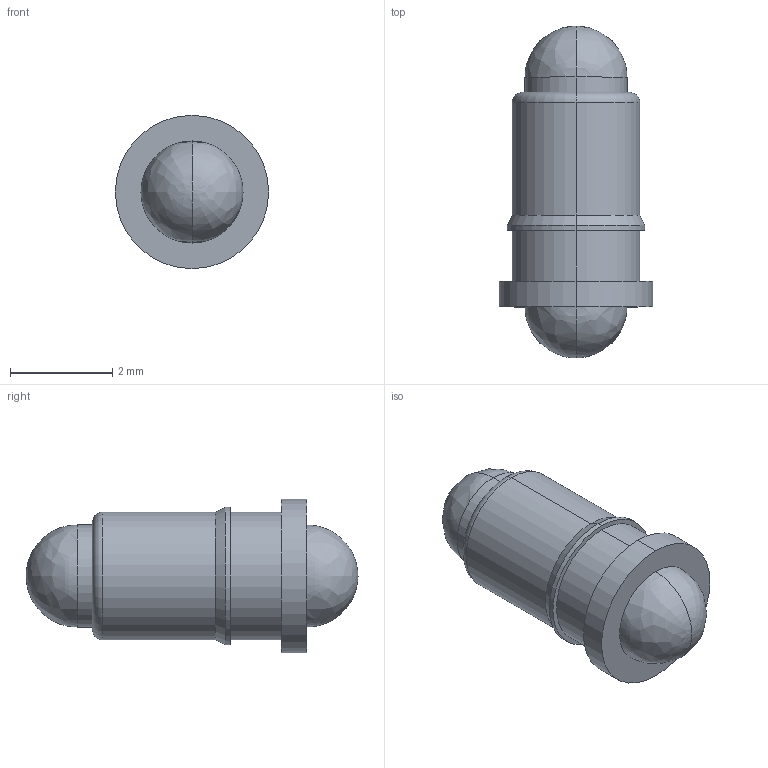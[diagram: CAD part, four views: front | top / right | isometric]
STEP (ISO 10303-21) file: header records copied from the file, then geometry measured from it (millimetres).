
FILE_DESCRIPTION((''),'2;1');
FILE_NAME('PRT0007','2023-06-01T11:21:11',('USER'),(''),'CREO PARAMETRIC BY PTC INC, 2020154','CREO PARAMETRIC BY PTC INC, 2020154','');
FILE_SCHEMA(('CONFIG_CONTROL_DESIGN'));
Length unit declared in the file: millimetre
Products named in the file (1): PRT0007
Bounding box: 3 x 6.5 x 3 mm (x, y, z)
Volume: 26.9 mm3; surface area: 56.6 mm2
Topology: 1 solids, 1 shells, 24 faces, 50 edges, 28 vertices
Faces by surface type: cylinder 10, plane 4, cone 4, bspline 4, torus 2
Entity records: 748 total; most frequent: CARTESIAN_POINT 206, DIRECTION 118, ORIENTED_EDGE 92, AXIS2_PLACEMENT_3D 52, EDGE_CURVE 46, CIRCLE 32, VERTEX_POINT 28, EDGE_LOOP 28
